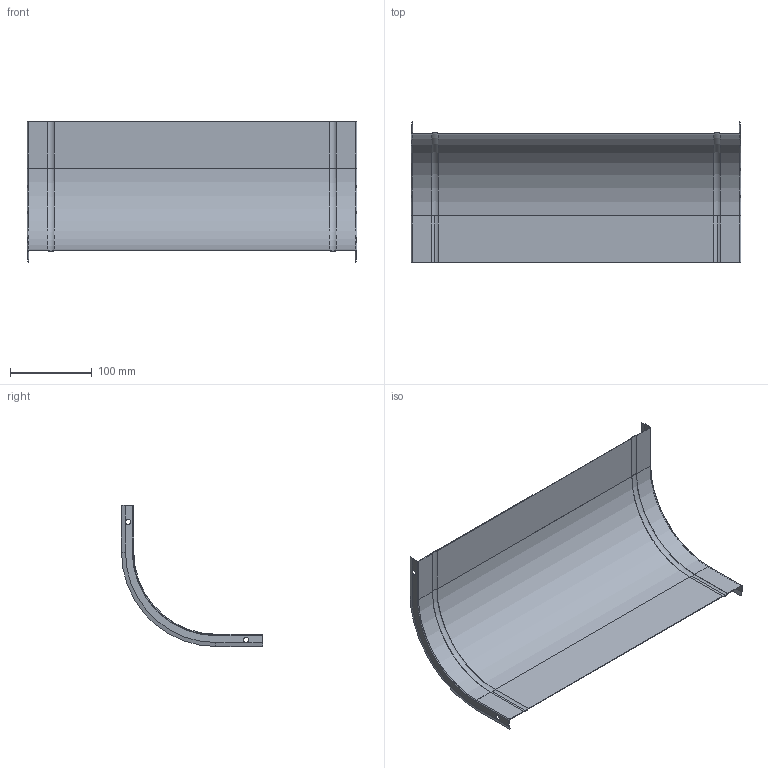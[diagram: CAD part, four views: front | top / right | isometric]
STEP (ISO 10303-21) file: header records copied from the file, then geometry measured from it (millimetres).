
FILE_DESCRIPTION (( 'STEP AP203' ), '1' );
FILE_NAME ('ERE_TAPA CCERC 400.step', '2023-07-28T14:53:51', ( '' ), ( '' ), 'SwSTEP 2.0', 'SolidWorks 2022', '' );
FILE_SCHEMA (( 'CONFIG_CONTROL_DESIGN' ));
Length unit declared in the file: millimetre
Products named in the file (1): ERE_TAPA CCERC 400
Bounding box: 402 x 172 x 172 mm (x, y, z)
Volume: 93933.3 mm3; surface area: 235790.3 mm2
Topology: 1 solids, 1 shells, 78 faces, 220 edges, 136 vertices
Faces by surface type: cylinder 36, plane 30, torus 8, cone 4
Entity records: 2605 total; most frequent: CARTESIAN_POINT 471, DIRECTION 450, ORIENTED_EDGE 440, EDGE_CURVE 220, AXIS2_PLACEMENT_3D 163, VERTEX_POINT 136, LINE 124, VECTOR 124
